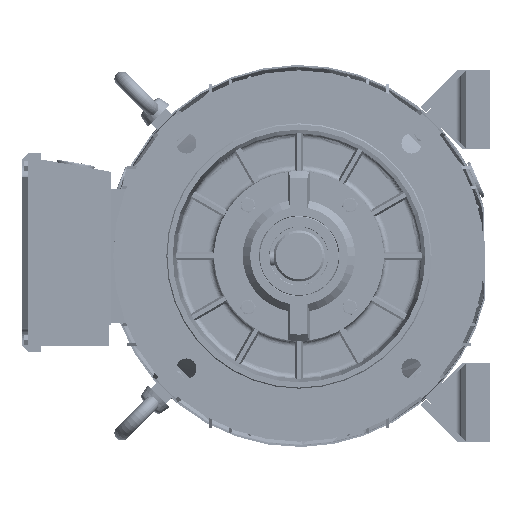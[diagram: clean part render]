
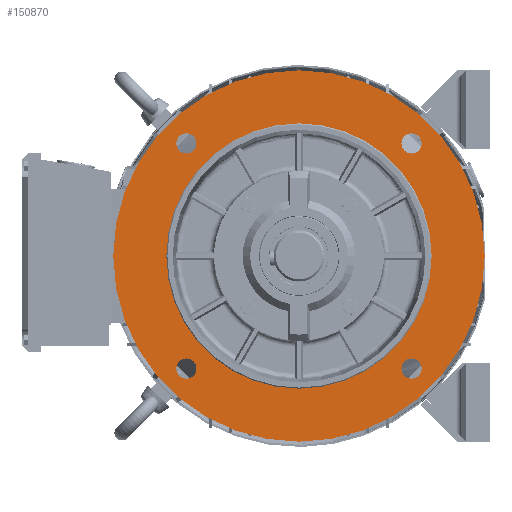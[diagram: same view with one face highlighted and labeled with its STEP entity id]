
A CAD part, left-side view. The second image highlights one B-rep face of the part: STEP entity #150870.
In plain terms, the highlighted planar face has unit normal (-1, 0, 0).
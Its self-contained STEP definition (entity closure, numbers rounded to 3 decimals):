
#141 = DIRECTION ( 'NONE',  ( 0., 0., -1. ) ) ;
#2885 = CIRCLE ( 'NONE', #61217, 9.5 ) ;
#4717 = DIRECTION ( 'NONE',  ( 0., 0., -1. ) ) ;
#4869 = DIRECTION ( 'NONE',  ( 0., 0., -1. ) ) ;
#6399 = AXIS2_PLACEMENT_3D ( 'NONE', #169612, #70398, #50817 ) ;
#7318 = CIRCLE ( 'NONE', #40636, 125. ) ;
#8465 = AXIS2_PLACEMENT_3D ( 'NONE', #54039, #178927, #13601 ) ;
#9420 = CARTESIAN_POINT ( 'NONE',  ( -228.749, -98.316, 106.066 ) ) ;
#9649 = DIRECTION ( 'NONE',  ( 0., 0., -1. ) ) ;
#12025 = VERTEX_POINT ( 'NONE', #229320 ) ;
#13601 = DIRECTION ( 'NONE',  ( 0., 0., -1. ) ) ;
#17092 = CARTESIAN_POINT ( 'NONE',  ( -228.749, -98.316, -96.566 ) ) ;
#17428 = CARTESIAN_POINT ( 'NONE',  ( -228.749, -98.316, -115.566 ) ) ;
#17908 = CIRCLE ( 'NONE', #163827, 175. ) ;
#18876 = CIRCLE ( 'NONE', #6399, 9.5 ) ;
#21418 = DIRECTION ( 'NONE',  ( 0., 0., -1. ) ) ;
#25222 = DIRECTION ( 'NONE',  ( 0., 0., -1. ) ) ;
#29215 = CARTESIAN_POINT ( 'NONE',  ( -228.749, -98.316, -106.066 ) ) ;
#40636 = AXIS2_PLACEMENT_3D ( 'NONE', #93025, #47445, #127125 ) ;
#46086 = DIRECTION ( 'NONE',  ( -1., 0., 0. ) ) ;
#46239 = EDGE_CURVE ( 'NONE', #184098, #12025, #65082, .T. ) ;
#46323 = VERTEX_POINT ( 'NONE', #188702 ) ;
#47445 = DIRECTION ( 'NONE',  ( -1., 0., 0. ) ) ;
#47681 = FACE_BOUND ( 'NONE', #170148, .T. ) ;
#50817 = DIRECTION ( 'NONE',  ( 0., 0., -1. ) ) ;
#53588 = EDGE_CURVE ( 'NONE', #99869, #248473, #219688, .T. ) ;
#53907 = CIRCLE ( 'NONE', #66395, 175. ) ;
#54039 = CARTESIAN_POINT ( 'NONE',  ( -228.749, -98.316, 106.066 ) ) ;
#55626 = VERTEX_POINT ( 'NONE', #233493 ) ;
#56877 = CARTESIAN_POINT ( 'NONE',  ( -228.749, 113.816, -106.066 ) ) ;
#57528 = EDGE_CURVE ( 'NONE', #201008, #55626, #221156, .T. ) ;
#57884 = CARTESIAN_POINT ( 'NONE',  ( -228.749, 7.75, 125. ) ) ;
#58510 = ORIENTED_EDGE ( 'NONE', *, *, #212820, .F. ) ;
#58690 = VERTEX_POINT ( 'NONE', #252231 ) ;
#59545 = DIRECTION ( 'NONE',  ( 0., 0., -1. ) ) ;
#61217 = AXIS2_PLACEMENT_3D ( 'NONE', #195353, #98703, #59545 ) ;
#61429 = CARTESIAN_POINT ( 'NONE',  ( -228.749, 113.816, 115.566 ) ) ;
#65082 = CIRCLE ( 'NONE', #173564, 125. ) ;
#65972 = FACE_BOUND ( 'NONE', #180763, .T. ) ;
#66113 = ORIENTED_EDGE ( 'NONE', *, *, #46239, .F. ) ;
#66395 = AXIS2_PLACEMENT_3D ( 'NONE', #119827, #104045, #4869 ) ;
#69146 = VERTEX_POINT ( 'NONE', #61429 ) ;
#70398 = DIRECTION ( 'NONE',  ( -1., 0., 0. ) ) ;
#71045 = AXIS2_PLACEMENT_3D ( 'NONE', #108724, #46086, #25222 ) ;
#75537 = EDGE_LOOP ( 'NONE', ( #58510, #203697 ) ) ;
#75817 = AXIS2_PLACEMENT_3D ( 'NONE', #29215, #188465, #9649 ) ;
#76418 = ORIENTED_EDGE ( 'NONE', *, *, #139415, .F. ) ;
#80369 = EDGE_CURVE ( 'NONE', #69146, #108266, #2885, .T. ) ;
#84619 = EDGE_CURVE ( 'NONE', #179793, #58690, #53907, .T. ) ;
#86552 = CARTESIAN_POINT ( 'NONE',  ( -228.749, 113.816, -96.566 ) ) ;
#88103 = PLANE ( 'NONE',  #93499 ) ;
#93025 = CARTESIAN_POINT ( 'NONE',  ( -228.749, 7.75, 0. ) ) ;
#93499 = AXIS2_PLACEMENT_3D ( 'NONE', #129935, #148219, #227773 ) ;
#97267 = ORIENTED_EDGE ( 'NONE', *, *, #133819, .F. ) ;
#98703 = DIRECTION ( 'NONE',  ( -1., 0., 0. ) ) ;
#99869 = VERTEX_POINT ( 'NONE', #17428 ) ;
#101866 = AXIS2_PLACEMENT_3D ( 'NONE', #56877, #171827, #251373 ) ;
#103433 = DIRECTION ( 'NONE',  ( 0., 0., -1. ) ) ;
#104000 = ORIENTED_EDGE ( 'NONE', *, *, #208595, .T. ) ;
#104045 = DIRECTION ( 'NONE',  ( -1., 0., 0. ) ) ;
#105979 = ORIENTED_EDGE ( 'NONE', *, *, #222561, .F. ) ;
#108266 = VERTEX_POINT ( 'NONE', #233156 ) ;
#108724 = CARTESIAN_POINT ( 'NONE',  ( -228.749, 113.816, -106.066 ) ) ;
#114054 = EDGE_LOOP ( 'NONE', ( #76418, #222890 ) ) ;
#119827 = CARTESIAN_POINT ( 'NONE',  ( -228.749, 7.75, 0. ) ) ;
#122358 = EDGE_LOOP ( 'NONE', ( #105979, #97267 ) ) ;
#127125 = DIRECTION ( 'NONE',  ( 0., 0., -1. ) ) ;
#129935 = CARTESIAN_POINT ( 'NONE',  ( -228.749, -167.25, 0. ) ) ;
#133498 = CIRCLE ( 'NONE', #8465, 9.5 ) ;
#133819 = EDGE_CURVE ( 'NONE', #46323, #176875, #233941, .T. ) ;
#134732 = DIRECTION ( 'NONE',  ( -1., 0., 0. ) ) ;
#138605 = CARTESIAN_POINT ( 'NONE',  ( -228.749, 7.75, 175. ) ) ;
#139415 = EDGE_CURVE ( 'NONE', #108266, #69146, #18876, .T. ) ;
#142105 = EDGE_CURVE ( 'NONE', #12025, #184098, #7318, .T. ) ;
#146920 = FACE_OUTER_BOUND ( 'NONE', #157483, .T. ) ;
#148219 = DIRECTION ( 'NONE',  ( 1., 0., 0. ) ) ;
#150870 = ADVANCED_FACE ( 'NONE', ( #146920, #244739, #248624, #65972, #225148, #47681 ), #88103, .F. ) ;
#157483 = EDGE_LOOP ( 'NONE', ( #104000, #246521 ) ) ;
#162665 = CARTESIAN_POINT ( 'NONE',  ( -228.749, 7.75, 0. ) ) ;
#162994 = ORIENTED_EDGE ( 'NONE', *, *, #166984, .F. ) ;
#163827 = AXIS2_PLACEMENT_3D ( 'NONE', #176437, #134732, #141 ) ;
#166984 = EDGE_CURVE ( 'NONE', #248473, #99869, #221851, .T. ) ;
#169612 = CARTESIAN_POINT ( 'NONE',  ( -228.749, 113.816, 106.066 ) ) ;
#170148 = EDGE_LOOP ( 'NONE', ( #181831, #66113 ) ) ;
#171827 = DIRECTION ( 'NONE',  ( -1., 0., 0. ) ) ;
#173564 = AXIS2_PLACEMENT_3D ( 'NONE', #162665, #183532, #4717 ) ;
#175702 = AXIS2_PLACEMENT_3D ( 'NONE', #9420, #244347, #103433 ) ;
#176437 = CARTESIAN_POINT ( 'NONE',  ( -228.749, 7.75, 0. ) ) ;
#176875 = VERTEX_POINT ( 'NONE', #205436 ) ;
#178927 = DIRECTION ( 'NONE',  ( -1., 0., 0. ) ) ;
#179793 = VERTEX_POINT ( 'NONE', #138605 ) ;
#180763 = EDGE_LOOP ( 'NONE', ( #204810, #162994 ) ) ;
#181831 = ORIENTED_EDGE ( 'NONE', *, *, #142105, .F. ) ;
#183224 = CARTESIAN_POINT ( 'NONE',  ( -228.749, -98.316, -106.066 ) ) ;
#183532 = DIRECTION ( 'NONE',  ( -1., 0., 0. ) ) ;
#184098 = VERTEX_POINT ( 'NONE', #57884 ) ;
#188465 = DIRECTION ( 'NONE',  ( -1., 0., 0. ) ) ;
#188702 = CARTESIAN_POINT ( 'NONE',  ( -228.749, -98.316, 115.566 ) ) ;
#195353 = CARTESIAN_POINT ( 'NONE',  ( -228.749, 113.816, 106.066 ) ) ;
#201008 = VERTEX_POINT ( 'NONE', #86552 ) ;
#203697 = ORIENTED_EDGE ( 'NONE', *, *, #57528, .F. ) ;
#204810 = ORIENTED_EDGE ( 'NONE', *, *, #53588, .F. ) ;
#205436 = CARTESIAN_POINT ( 'NONE',  ( -228.749, -98.316, 96.566 ) ) ;
#208595 = EDGE_CURVE ( 'NONE', #58690, #179793, #17908, .T. ) ;
#212820 = EDGE_CURVE ( 'NONE', #55626, #201008, #214385, .T. ) ;
#214385 = CIRCLE ( 'NONE', #101866, 9.5 ) ;
#219688 = CIRCLE ( 'NONE', #223803, 9.5 ) ;
#221156 = CIRCLE ( 'NONE', #71045, 9.5 ) ;
#221851 = CIRCLE ( 'NONE', #75817, 9.5 ) ;
#222561 = EDGE_CURVE ( 'NONE', #176875, #46323, #133498, .T. ) ;
#222890 = ORIENTED_EDGE ( 'NONE', *, *, #80369, .F. ) ;
#223803 = AXIS2_PLACEMENT_3D ( 'NONE', #183224, #241931, #21418 ) ;
#225148 = FACE_BOUND ( 'NONE', #122358, .T. ) ;
#227773 = DIRECTION ( 'NONE',  ( 0., -1., 0. ) ) ;
#229320 = CARTESIAN_POINT ( 'NONE',  ( -228.749, 7.75, -125. ) ) ;
#233156 = CARTESIAN_POINT ( 'NONE',  ( -228.749, 113.816, 96.566 ) ) ;
#233493 = CARTESIAN_POINT ( 'NONE',  ( -228.749, 113.816, -115.566 ) ) ;
#233941 = CIRCLE ( 'NONE', #175702, 9.5 ) ;
#241931 = DIRECTION ( 'NONE',  ( -1., 0., 0. ) ) ;
#244347 = DIRECTION ( 'NONE',  ( -1., 0., 0. ) ) ;
#244739 = FACE_BOUND ( 'NONE', #114054, .T. ) ;
#246521 = ORIENTED_EDGE ( 'NONE', *, *, #84619, .T. ) ;
#248473 = VERTEX_POINT ( 'NONE', #17092 ) ;
#248624 = FACE_BOUND ( 'NONE', #75537, .T. ) ;
#251373 = DIRECTION ( 'NONE',  ( 0., 0., -1. ) ) ;
#252231 = CARTESIAN_POINT ( 'NONE',  ( -228.749, 7.75, -175. ) ) ;
